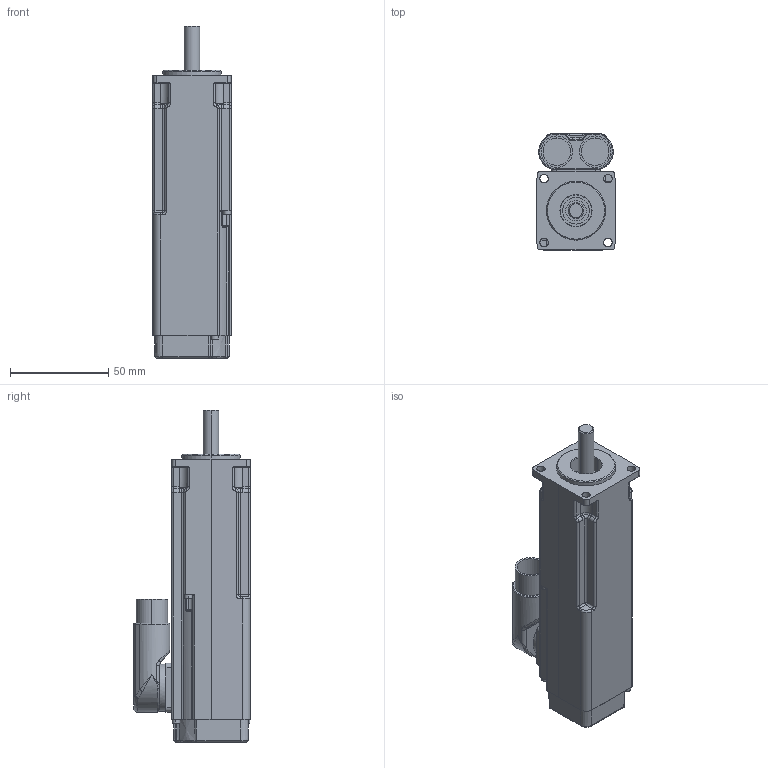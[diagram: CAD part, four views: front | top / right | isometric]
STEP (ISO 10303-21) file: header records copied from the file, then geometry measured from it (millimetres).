
FILE_DESCRIPTION (( 'STEP AP214' ), '1' );
FILE_NAME ('MR7712-Ux-Nxx-G##-AYD-MS-P0.stp', '2017-05-26T09:56:14', ( 'Windows User' ), ( '' ), 'SwSTEP 2.0', 'SolidWorks 2017', '' );
FILE_SCHEMA (( 'AUTOMOTIVE_DESIGN' ));
Length unit declared in the file: millimetre
Products named in the file (1): MR7712-Ux-Nxx-G##-AYD-MS-P0
Bounding box: 40 x 59.35 x 169 mm (x, y, z)
Volume: 235366.6 mm3; surface area: 33540.8 mm2
Topology: 1 solids, 1 shells, 475 faces, 1101 edges, 618 vertices
Faces by surface type: cylinder 186, bspline 107, torus 76, plane 76, cone 26, sphere 4
Entity records: 19132 total; most frequent: CARTESIAN_POINT 5343, ORIENTED_EDGE 2150, DIRECTION 2095, EDGE_CURVE 1075, AXIS2_PLACEMENT_3D 866, VERTEX_POINT 618, EDGE_LOOP 499, CIRCLE 497
